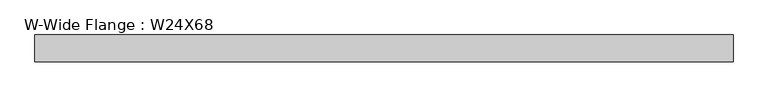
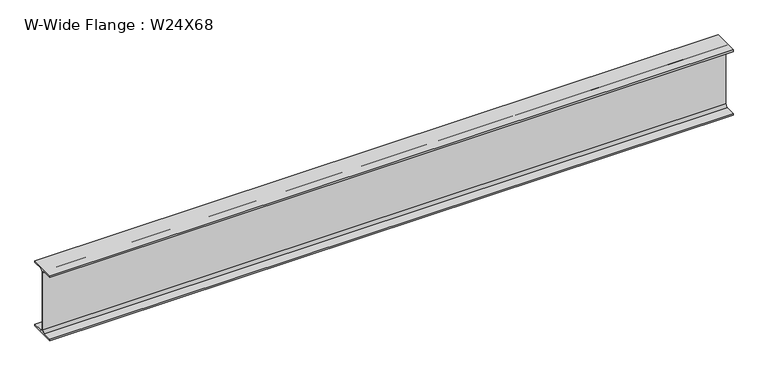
"""IFC4 building model written with IfcOpenShell, lengths in millimetres: beam geometry, W-Wide Flange : W24X68."""

import ifcopenshell
import ifcopenshell.guid

model = None  # the IFC model being written
_history = None  # IfcOwnerHistory: only IFC2X3 demands one
_inside = {}  # id of a spatial element -> (the spatial element, [elements in it])
_under = {}  # id of a project, library or spatial element -> (it, [spatial elements below it])
_declared = {}  # id of a project -> (the project, [libraries it declares])
_typed = {}  # id of a type object -> (the type object, [elements of that type])
_made_of = {}  # id of a material, layer set ... -> (it, [elements and type objects made of it])


def new_model(schema):
    """Start an empty IFC model of exactly this schema.

    Asked for "IFC4X3", IfcOpenShell would pick the latest addendum, in which some entities
    have other attributes; the version numbers below select the first issue.
    IFC2X3 requires an IfcOwnerHistory on every rooted entity: one is made here for all.
    """
    global model, _history
    if schema == "IFC4X3":
        model = ifcopenshell.file(schema_version=(4, 3, 0, 0))
    else:
        model = ifcopenshell.file(schema=schema)
    _inside.clear()
    _under.clear()
    _declared.clear()
    _typed.clear()
    _made_of.clear()
    _history = None
    if model.schema == "IFC2X3":
        org = make("IfcOrganization", Name="unknown")
        user = make(
            "IfcPersonAndOrganization",
            ThePerson=make("IfcPerson", FamilyName="unknown"),
            TheOrganization=org,
        )
        app = make(
            "IfcApplication",
            ApplicationDeveloper=org,
            Version="unknown",
            ApplicationFullName="unknown",
            ApplicationIdentifier="unknown",
        )
        _history = make(
            "IfcOwnerHistory",
            OwningUser=user,
            OwningApplication=app,
            ChangeAction="ADDED",
            CreationDate=0,
        )
    return model


def make(cls, **values):
    """One entity of the class cls with the attributes given. An attribute that is None is left unset."""
    return model.create_entity(
        cls, **{name: value for name, value in values.items() if value is not None}
    )


def rooted(cls, **values):
    """An entity with a GlobalId (a new one), such as an element, a storey or a relation."""
    return make(cls, GlobalId=ifcopenshell.guid.new(), OwnerHistory=_history, **values)


def si_unit(unit_type, name, prefix=None):
    """IfcSIUnit, for example si_unit("LENGTHUNIT", "METRE", prefix="MILLI")."""
    return make("IfcSIUnit", UnitType=unit_type, Prefix=prefix, Name=name)


def assignment(units):
    """IfcUnitAssignment: the units of a project."""
    return None if units is None else make("IfcUnitAssignment", Units=units)


def point(xyz):
    """IfcCartesianPoint."""
    return None if xyz is None else make("IfcCartesianPoint", Coordinates=xyz)


def direction(xyz):
    """IfcDirection."""
    return None if xyz is None else make("IfcDirection", DirectionRatios=xyz)


def frame(location, z_axis=None, x_axis=None):
    """IfcAxis2Placement3D, a coordinate frame: its origin and axes. An axis left out is left unset."""
    return make(
        "IfcAxis2Placement3D",
        Location=point(location),
        Axis=direction(z_axis),
        RefDirection=direction(x_axis),
    )


def frame_2d(location, x_axis=None):
    """IfcAxis2Placement2D, a coordinate frame in the plane: its origin and x axis."""
    return make(
        "IfcAxis2Placement2D", Location=point(location), RefDirection=direction(x_axis)
    )


def origin():
    """The frame at (0, 0, 0) with its axes left unset."""
    return frame((0.0, 0.0, 0.0))


def place(relative_to, where):
    """IfcLocalPlacement: puts the frame where relative to a parent placement (None: the world)."""
    return make(
        "IfcLocalPlacement", PlacementRelTo=relative_to, RelativePlacement=where
    )


def context(
    kind, dimensions, precision=None, world=None, true_north=None, identifier=None
):
    """IfcGeometricRepresentationContext, for example the 3D "Model" context."""
    return make(
        "IfcGeometricRepresentationContext",
        ContextIdentifier=identifier,
        ContextType=kind,
        CoordinateSpaceDimension=dimensions,
        Precision=precision,
        WorldCoordinateSystem=world,
        TrueNorth=true_north,
    )


def project(units=None, contexts=None):
    """IfcProject with its units and contexts."""
    return rooted(
        "IfcProject",
        Name="project",
        RepresentationContexts=contexts,
        UnitsInContext=assignment(units),
    )


def spatial(cls, under=None, at=None, **own):
    """A site, building, storey or space (cls), placed at a placement, below another one or the project."""
    s = rooted(cls, ObjectPlacement=at, **own)
    if under is not None:
        _under.setdefault(under.id(), (under, []))[1].append(s)
    return s


def polyline(points):
    """IfcPolyline through the points."""
    return make("IfcPolyline", Points=[point(p) for p in points])


def circle_curve(where, radius):
    """IfcCircle in the frame where."""
    return make("IfcCircle", Position=where, Radius=radius)


def trimmed(basis, trim1, trim2, sense, master):
    """IfcTrimmedCurve: the piece of a basis curve between two trims."""
    return make(
        "IfcTrimmedCurve",
        BasisCurve=basis,
        Trim1=trim1,
        Trim2=trim2,
        SenseAgreement=sense,
        MasterRepresentation=master,
    )


def segment(curve, same_sense, transition):
    """IfcCompositeCurveSegment."""
    return make(
        "IfcCompositeCurveSegment",
        Transition=transition,
        SameSense=same_sense,
        ParentCurve=curve,
    )


def composite_curve(segments, self_intersect=None):
    """IfcCompositeCurve: segments joined end to end."""
    return make("IfcCompositeCurve", Segments=segments, SelfIntersect=self_intersect)


def outline(outer, holes=None, kind="AREA"):
    """IfcArbitraryClosedProfileDef: a profile drawn as a closed curve; with holes, ...WithVoids."""
    if holes is None:
        return make("IfcArbitraryClosedProfileDef", ProfileType=kind, OuterCurve=outer)
    return make(
        "IfcArbitraryProfileDefWithVoids",
        ProfileType=kind,
        OuterCurve=outer,
        InnerCurves=holes,
    )


def extrude(swept, where, along, depth):
    """IfcExtrudedAreaSolid: the profile swept, set in the frame where, extruded along a direction by depth."""
    return make(
        "IfcExtrudedAreaSolid",
        SweptArea=swept,
        Position=where,
        ExtrudedDirection=direction(along),
        Depth=depth,
    )


def shape(context_of_items, identifier, shape_type, items):
    """IfcShapeRepresentation: the items that make up one representation, for example the "Body"."""
    return make(
        "IfcShapeRepresentation",
        ContextOfItems=context_of_items,
        RepresentationIdentifier=identifier,
        RepresentationType=shape_type,
        Items=items,
    )


def source(mapping_origin, context_of_items, identifier, shape_type, items):
    """IfcRepresentationMap: a shape defined once, which mapped items show again and again."""
    return make(
        "IfcRepresentationMap",
        MappingOrigin=mapping_origin,
        MappedRepresentation=shape(context_of_items, identifier, shape_type, items),
    )


def transform(
    local_origin,
    x_axis=None,
    y_axis=None,
    z_axis=None,
    scale=None,
    scale2=None,
    scale3=None,
    uniform=True,
):
    """IfcCartesianTransformationOperator3D, or its non-uniform kind. x_axis, y_axis, z_axis: its Axis1, 2, 3."""
    if uniform:
        return make(
            "IfcCartesianTransformationOperator3D",
            Axis1=direction(x_axis),
            Axis2=direction(y_axis),
            LocalOrigin=point(local_origin),
            Scale=scale,
            Axis3=direction(z_axis),
        )
    return make(
        "IfcCartesianTransformationOperator3DnonUniform",
        Axis1=direction(x_axis),
        Axis2=direction(y_axis),
        LocalOrigin=point(local_origin),
        Scale=scale,
        Axis3=direction(z_axis),
        Scale2=scale2,
        Scale3=scale3,
    )


def mapped(mapping_source, mapping_target):
    """IfcMappedItem: shows the shape of a source again, moved by a transform."""
    return make(
        "IfcMappedItem", MappingSource=mapping_source, MappingTarget=mapping_target
    )


def made_of(thing, what):
    """Note that an element or type object is made of a material, layer set ...; save() writes the relation."""
    if what is not None:
        _made_of.setdefault(what.id(), (what, []))[1].append(thing)
    return thing


def element(
    cls,
    number,
    at=None,
    inside=None,
    cuts=None,
    type_object=None,
    material=None,
    context=None,
    identifier="Body",
    shape_type=None,
    held_by="IfcProductDefinitionShape",
    body=None,
    shapes=None,
    **own,
):
    """One element of the class cls, such as IfcWall. Its Tag is "e" and its number.

    at: its placement. inside: the storey or other place that contains it. cuts: it is an
    opening in that element (IfcRelVoidsElement). A single representation is given by context,
    identifier, shape_type and body (its items); several are given by shapes. held_by: the class
    of the entity that holds the representations. save() writes the other relations.
    """
    e = rooted(cls, Tag="e%d" % number, ObjectPlacement=at, **own)
    if body is not None:
        shapes = [shape(context, identifier, shape_type, body)]
    if shapes is not None:
        e.Representation = make(held_by, Representations=shapes)
    if inside is not None:
        _inside.setdefault(inside.id(), (inside, []))[1].append(e)
    if cuts is not None:
        rooted(
            "IfcRelVoidsElement", RelatingBuildingElement=cuts, RelatedOpeningElement=e
        )
    if type_object is not None:
        _typed.setdefault(type_object.id(), (type_object, []))[1].append(e)
    return made_of(e, material)


def aggregate(whole, parts):
    """IfcRelAggregates: a whole, such as a stair, and the parts it consists of."""
    return rooted("IfcRelAggregates", RelatingObject=whole, RelatedObjects=parts)


def save(model, path):
    """Write the relations noted so far, then the file.

    IfcRelAggregates (storeys below a building ...), IfcRelContainedInSpatialStructure (elements
    in a storey), IfcRelDefinesByType, IfcRelAssociatesMaterial and IfcRelDeclares: one each for
    every whole, place, type object, material and project.
    """
    for whole, parts in _under.values():
        aggregate(whole, parts)
    for where, things in _inside.values():
        rooted(
            "IfcRelContainedInSpatialStructure",
            RelatedElements=things,
            RelatingStructure=where,
        )
    for kind, things in _typed.values():
        rooted("IfcRelDefinesByType", RelatedObjects=things, RelatingType=kind)
    for what, things in _made_of.values():
        rooted("IfcRelAssociatesMaterial", RelatedObjects=things, RelatingMaterial=what)
    for by, libraries in _declared.values():
        rooted("IfcRelDeclares", RelatingContext=by, RelatedDefinitions=libraries)
    model.write(path)


def w_wide_flange_w24x68_d8fbc3e3(model_context):
    return source(origin(), model_context, "Body", "SweptSolid", [
        extrude(outline(composite_curve([segment(polyline([(113.919, -286.131), (113.919, -300.99), (-113.919, -300.99), (-113.919, -286.131), (-28.5115, -286.131)]), True, "CONTINUOUS"), segment(trimmed(circle_curve(frame_2d((-28.5115, -262.89)), 23.241), [point((-28.5115, -286.131))], [point((-5.2705, -262.89))], True, "CARTESIAN"), True, "CONTINUOUS"), segment(polyline([(-5.2705, -262.89), (-5.2705, 262.89)]), True, "CONTINUOUS"), segment(trimmed(circle_curve(frame_2d((-28.5115, 262.89)), 23.241), [point((-5.2705, 262.89))], [point((-28.5115, 286.131))], True, "CARTESIAN"), True, "CONTINUOUS"), segment(polyline([(-28.5115, 286.131), (-113.919, 286.131), (-113.919, 300.99), (113.919, 300.99), (113.919, 286.131), (28.5115, 286.131)]), True, "CONTINUOUS"), segment(trimmed(circle_curve(frame_2d((28.5115, 262.89)), 23.241), [point((28.5115, 286.131))], [point((5.2705, 262.89))], True, "CARTESIAN"), True, "CONTINUOUS"), segment(polyline([(5.2705, 262.89), (5.2705, -262.89)]), True, "CONTINUOUS"), segment(trimmed(circle_curve(frame_2d((28.5115, -262.89)), 23.241), [point((5.2705, -262.89))], [point((28.5115, -286.131))], True, "CARTESIAN"), True, "CONTINUOUS"), segment(polyline([(28.5115, -286.131), (113.919, -286.131)]), True, "CONTINUOUS")], self_intersect=False)), frame((-2978.15, 0.0, 0.0), z_axis=(1.0, 0.0, 0.0), x_axis=(0.0, 1.0, 0.0)), (0.0, 0.0, 1.0), 5956.3),
    ])


if __name__ == "__main__":
    model = new_model("IFC4")
    model_context = context("Model", 3, world=origin())
    ifc_project = project(units=[si_unit("LENGTHUNIT", "METRE", prefix="MILLI")], contexts=[model_context])
    site = spatial("IfcSite", under=ifc_project)
    building = spatial("IfcBuilding", under=site)
    placement = place(None, origin())
    w_wide_flange_w24x68_shape = w_wide_flange_w24x68_d8fbc3e3(model_context)
    element("IfcBeam", 1, ObjectType="W-Wide Flange : W24X68", at=placement, inside=building, context=model_context, shape_type="MappedRepresentation", body=[
        mapped(w_wide_flange_w24x68_shape, transform((0.0, 0.0, 0.0), x_axis=(1.0, 0.0, 0.0), y_axis=(0.0, 1.0, 0.0), z_axis=(0.0, 0.0, 1.0))),
    ])
    save(model, "model.ifc")
